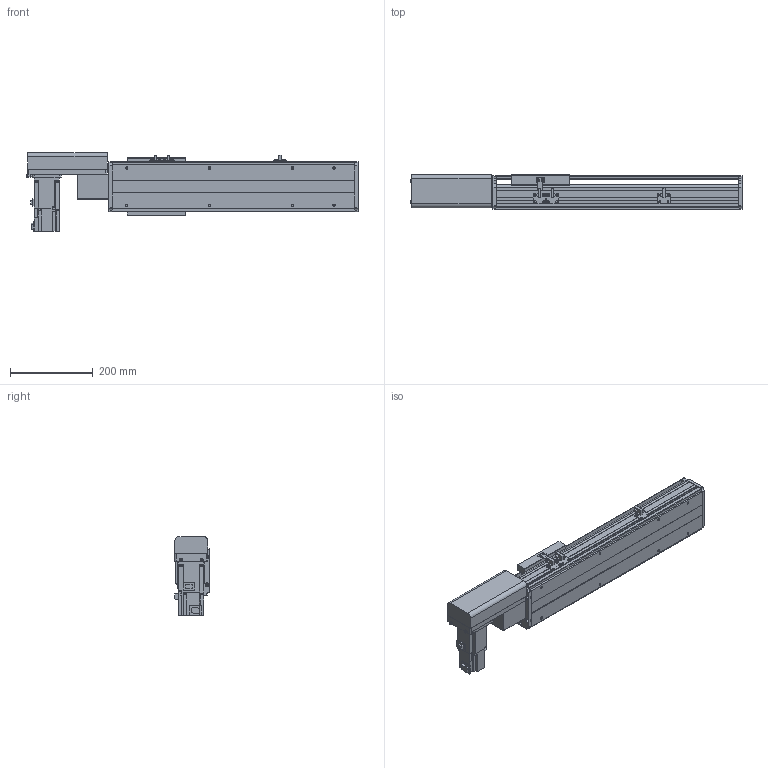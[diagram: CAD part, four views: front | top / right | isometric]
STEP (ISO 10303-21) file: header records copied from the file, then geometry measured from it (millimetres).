
FILE_DESCRIPTION( ( 'STEP AP214' ), '1' );
FILE_NAME( 'x:/temp/worker_27/temp/exporttempdir_6708_1_KpaHn/format_0/PBS120-P40-S300-R-T40-C1-N(0).stp', '2022-06-06T00:05:20', ( 'License CC BY-ND 4.0' ), ( 'CADENAS' ), ' ', 'PARTsolutions', ' ' );
FILE_SCHEMA( ( 'AUTOMOTIVE_DESIGN { 1 0 10303 214 1 1 1 1 }' ) );
Length unit declared in the file: millimetre
Products named in the file (7): PBS120-P40-S300-R-T40-C1-N(0); _PBS120-S300()_body; _PBS120T-R_motors; _T40-p1; _PBS120_sliser; _PBS120_plant; _PBS120_sensor
Assembly tree (8 placements, depth 2):
  PBS120-P40-S300-R-T40-C1-N(0)
    _PBS120-S300()_body
    _PBS120T-R_motors
    _T40-p1
    _PBS120_sliser
    _PBS120_plant
    _PBS120_sensor  x3
Bounding box: 801 x 83 x 189.7 mm (x, y, z)
Volume: 3682724.3 mm3; surface area: 661106.4 mm2
Topology: 8 solids, 8 shells, 804 faces, 2116 edges, 1363 vertices
Faces by surface type: plane 541, cylinder 221, cone 40, torus 2
Full cylindrical faces by diameter (mm): 2.459 x6, 3.242 x4, 4 x2, 4.134 x4, 4.5 x10, 4.917 x12, 5.5 x11, 6 x2, 6.6 x1, 7 x2, 8.5 x4, 9 x4, 12 x1, 14 x1, 30 x2, 40 x1, 50 x2
Entity records: 26652 total; most frequent: DIRECTION 3644, CARTESIAN_POINT 3605, ORIENTED_EDGE 3454, EDGE_CURVE 1727, LINE 1228, VECTOR 1228, AXIS2_PLACEMENT_3D 1208, VERTEX_POINT 1169
